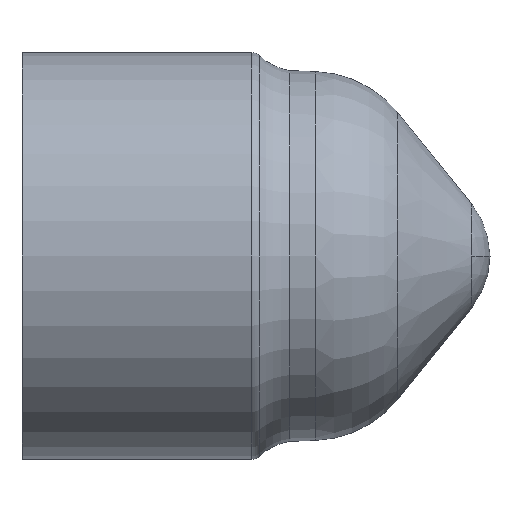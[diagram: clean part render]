
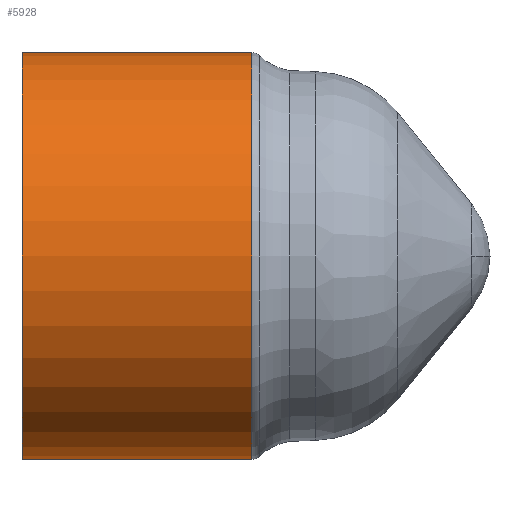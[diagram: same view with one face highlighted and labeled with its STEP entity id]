
A CAD part, left-side view. The second image highlights one B-rep face of the part: STEP entity #5928.
In plain terms, the highlighted cylindrical face has radius 4.674 mm (diameter 9.347 mm), a partial arc.
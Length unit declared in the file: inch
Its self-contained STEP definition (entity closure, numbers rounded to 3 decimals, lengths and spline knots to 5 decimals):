
#106 = CARTESIAN_POINT ( 'NONE',  ( 0., 1.80924, 0.184 ) ) ;
#261 = ORIENTED_EDGE ( 'NONE', *, *, #1562, .F. ) ;
#1276 = CARTESIAN_POINT ( 'NONE',  ( 0., 0.02228, -0.184 ) ) ;
#1551 = CARTESIAN_POINT ( 'NONE',  ( 0., 0.02228, 0. ) ) ;
#1562 = EDGE_CURVE ( 'NONE', #5234, #4069, #5258, .T. ) ;
#1660 = CARTESIAN_POINT ( 'NONE',  ( 0., 1.80924, -0.184 ) ) ;
#1724 = AXIS2_PLACEMENT_3D ( 'NONE', #1551, #3379, #2924 ) ;
#1794 = DIRECTION ( 'NONE',  ( 0., 0., 1. ) ) ;
#1920 = DIRECTION ( 'NONE',  ( 0., 1., 0. ) ) ;
#2353 = CARTESIAN_POINT ( 'NONE',  ( 0., 0.23, 0.184 ) ) ;
#2389 = EDGE_CURVE ( 'NONE', #5018, #5234, #5890, .T. ) ;
#2458 = CARTESIAN_POINT ( 'NONE',  ( 0., 0.02228, 0.184 ) ) ;
#2595 = EDGE_CURVE ( 'NONE', #2967, #4069, #3518, .T. ) ;
#2924 = DIRECTION ( 'NONE',  ( 0., 0., -1. ) ) ;
#2967 = VERTEX_POINT ( 'NONE', #2458 ) ;
#3075 = EDGE_CURVE ( 'NONE', #5018, #2967, #6051, .T. ) ;
#3379 = DIRECTION ( 'NONE',  ( 0., 1., 0. ) ) ;
#3439 = FACE_OUTER_BOUND ( 'NONE', #6010, .T. ) ;
#3518 = LINE ( 'NONE', #106, #5860 ) ;
#3553 = DIRECTION ( 'NONE',  ( 0., 1., 0. ) ) ;
#3744 = CARTESIAN_POINT ( 'NONE',  ( 0., 0.23, 0. ) ) ;
#4069 = VERTEX_POINT ( 'NONE', #2353 ) ;
#4271 = ORIENTED_EDGE ( 'NONE', *, *, #3075, .T. ) ;
#4508 = DIRECTION ( 'NONE',  ( 0., 1., 0. ) ) ;
#4618 = AXIS2_PLACEMENT_3D ( 'NONE', #5463, #4508, #1794 ) ;
#4769 = AXIS2_PLACEMENT_3D ( 'NONE', #3744, #1920, #5188 ) ;
#5018 = VERTEX_POINT ( 'NONE', #1276 ) ;
#5188 = DIRECTION ( 'NONE',  ( 0., 0., 1. ) ) ;
#5234 = VERTEX_POINT ( 'NONE', #5358 ) ;
#5258 = CIRCLE ( 'NONE', #4769, 0.184 ) ;
#5310 = CYLINDRICAL_SURFACE ( 'NONE', #4618, 0.184 ) ;
#5358 = CARTESIAN_POINT ( 'NONE',  ( 0., 0.23, -0.184 ) ) ;
#5463 = CARTESIAN_POINT ( 'NONE',  ( 0., 1.80924, 0. ) ) ;
#5666 = ORIENTED_EDGE ( 'NONE', *, *, #2389, .F. ) ;
#5785 = DIRECTION ( 'NONE',  ( 0., 1., 0. ) ) ;
#5860 = VECTOR ( 'NONE', #5785, 39.37008 ) ;
#5890 = LINE ( 'NONE', #1660, #5948 ) ;
#5928 = ADVANCED_FACE ( 'NONE', ( #3439 ), #5310, .T. ) ;
#5948 = VECTOR ( 'NONE', #3553, 39.37008 ) ;
#5985 = ORIENTED_EDGE ( 'NONE', *, *, #2595, .T. ) ;
#6010 = EDGE_LOOP ( 'NONE', ( #5666, #4271, #5985, #261 ) ) ;
#6051 = CIRCLE ( 'NONE', #1724, 0.184 ) ;
